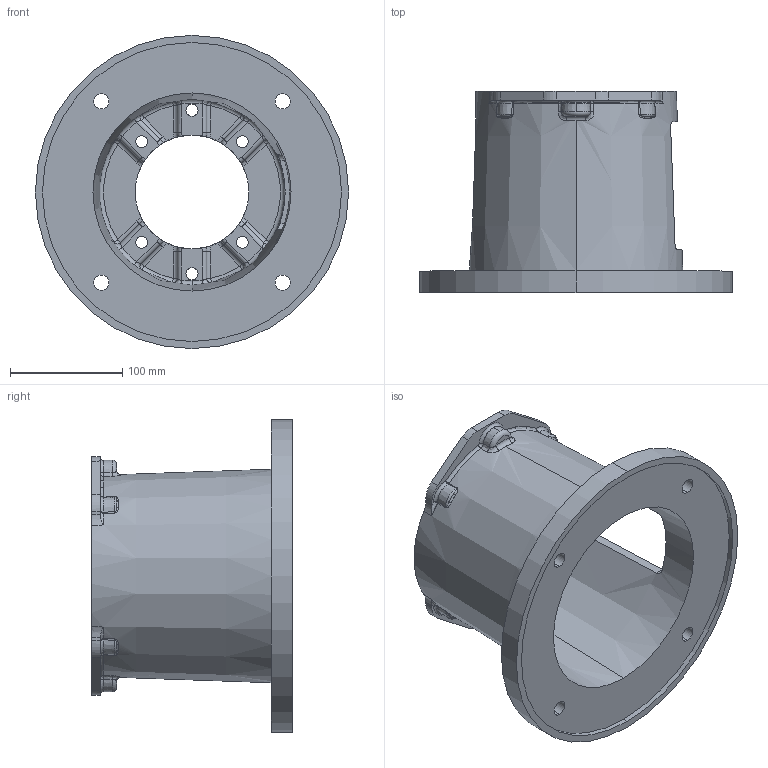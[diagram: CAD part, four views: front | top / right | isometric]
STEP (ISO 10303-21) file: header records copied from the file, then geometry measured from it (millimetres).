
FILE_DESCRIPTION (( 'STEP AP203' ), '1' );
FILE_NAME ('M284682B.STEP', '2007-12-21T20:58:43', ( 'Chris McCoy' ), ( 'Magnaloy Coupling Co' ), 'SwSTEP 2.0', 'SolidWorks 2007', '' );
FILE_SCHEMA (( 'CONFIG_CONTROL_DESIGN' ));
Length unit declared in the file: inch
Products named in the file (1): M284682B
Bounding box: 279.4 x 179.32 x 279.4 mm (x, y, z)
Volume: 1365801 mm3; surface area: 310347.9 mm2
Topology: 1 solids, 1 shells, 354 faces, 902 edges, 532 vertices
Faces by surface type: torus 106, cylinder 86, bspline 64, plane 50, sphere 24, cone 24
Entity records: 14649 total; most frequent: CARTESIAN_POINT 6515, ORIENTED_EDGE 1764, DIRECTION 1682, EDGE_CURVE 882, AXIS2_PLACEMENT_3D 761, VERTEX_POINT 532, CIRCLE 470, EDGE_LOOP 380
